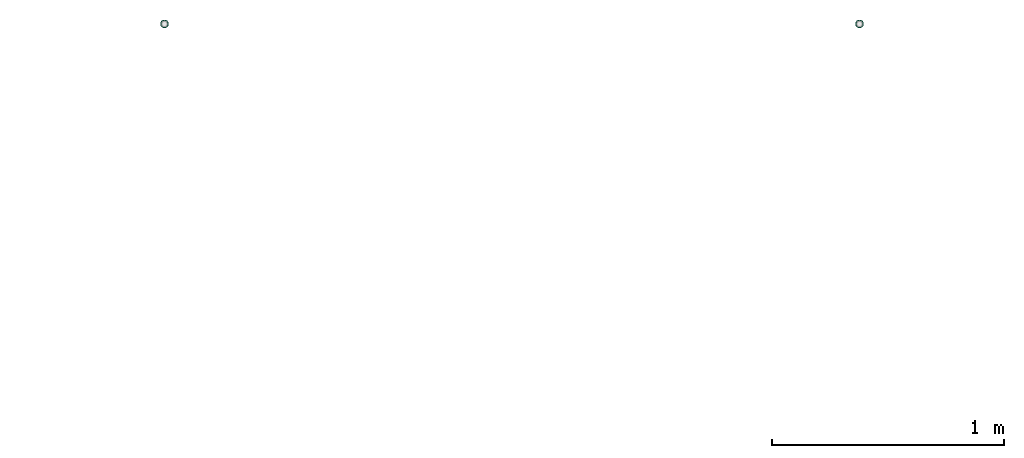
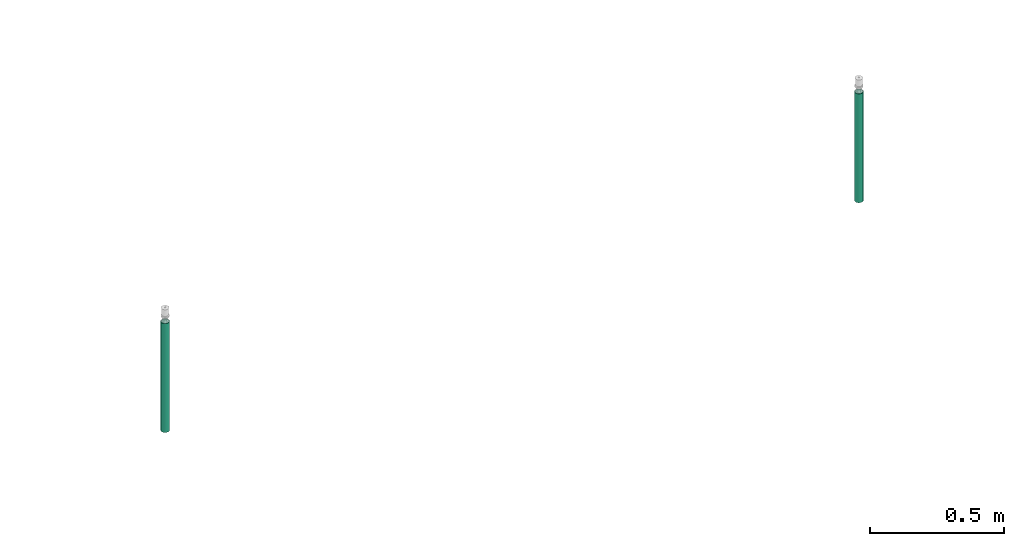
# One storey, part 43 of 44: 2 flow segments.
"""IFC2X3 building model written with IfcOpenShell, lengths in millimetres."""

from ifc_helpers import new_model, entity, si_unit, converted_unit, derived_unit, direction, frame, place, context, subcontext, project, spatial, faceted_brep, type_object, element, save


model = new_model("IFC2X3")

# Units and contexts
model_context = context("Model", 3, precision=0.01, world=frame((0.0, 4.29681676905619e-09, 0.0)), true_north=direction((4.01073788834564e-13, 1.0)))
plan_context = context("Plan", 3, precision=0.01, world=frame((0.0, 4.29681676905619e-09, 0.0)), true_north=direction((4.01073788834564e-13, 1.0)))
body_context = subcontext(model_context, "Body", "Model", "MODEL_VIEW")
ifc_project = project(units=[converted_unit("PLANEANGLEUNIT", "DEGREE", entity("IfcPositiveLengthMeasure", 0.0174532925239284), si_unit("PLANEANGLEUNIT", "RADIAN"), dimensions=[0, 0, 0, 0, 0, 0, 0]), si_unit("AREAUNIT", "SQUARE_METRE"), si_unit("LENGTHUNIT", "METRE", prefix="MILLI"), si_unit("MASSUNIT", "GRAM", prefix="KILO"), si_unit("POWERUNIT", "WATT"), si_unit("PRESSUREUNIT", "PASCAL"), si_unit("FORCEUNIT", "NEWTON", prefix="KILO"), si_unit("ELECTRICVOLTAGEUNIT", "VOLT"), si_unit("ELECTRICCURRENTUNIT", "AMPERE"), si_unit("THERMODYNAMICTEMPERATUREUNIT", "DEGREE_CELSIUS"), si_unit("TIMEUNIT", "SECOND"), si_unit("VOLUMEUNIT", "CUBIC_METRE"), derived_unit("LINEARVELOCITYUNIT", [(si_unit("LENGTHUNIT", "METRE"), 1), (si_unit("TIMEUNIT", "SECOND"), -1)]), derived_unit("VOLUMETRICFLOWRATEUNIT", [(si_unit("VOLUMEUNIT", "CUBIC_METRE"), 1), (si_unit("TIMEUNIT", "SECOND"), -1)]), derived_unit("THERMALTRANSMITTANCEUNIT", [(si_unit("POWERUNIT", "WATT"), 1), (si_unit("THERMODYNAMICTEMPERATUREUNIT", "KELVIN"), -1), (si_unit("AREAUNIT", "SQUARE_METRE"), -1)]), derived_unit("SOUNDPRESSUREUNIT", [(si_unit("PRESSUREUNIT", "PASCAL"), 1)])], contexts=[model_context, plan_context])

# Site, building, storey
site_placement = place(None, frame((0.0, -4.29681676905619e-09, 0.0), z_axis=(0.0, 0.0, 1.0), x_axis=(1.0, 0.0, 0.0)))
site = spatial("IfcSite", under=ifc_project, at=site_placement, CompositionType="ELEMENT")
building_placement = place(site_placement, frame((0.0, 4.29681676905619e-09, 0.0), z_axis=(0.0, 0.0, 1.0), x_axis=(1.0, 0.0, 0.0)))
building = spatial("IfcBuilding", under=site, at=building_placement, Name="mc-building", CompositionType="ELEMENT")
storey_placement = place(building_placement, frame((0.0, 0.0, 207370.0), z_axis=(0.0, 0.0, 1.0), x_axis=(1.0, 0.0, 0.0)))
storey = spatial("IfcBuildingStorey", under=building, at=storey_placement, Name="Nivå E", CompositionType="ELEMENT", Elevation=207370.0)

# Flow segments
pipe_segment_type = type_object("IfcPipeSegmentType", Name="Stålrør normaltykke", PredefinedType="RIGIDSEGMENT")
flow_segment_1_placement = place(storey_placement, frame((530500.0, 459009.83177, 1961.79999999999), z_axis=(1.0, 0.0, 0.0), x_axis=(0.0, 0.0, 1.0)))
element("IfcFlowSegment", 1, at=flow_segment_1_placement, inside=storey, type_object=pipe_segment_type, Name="Stålrør normaltykke", context=body_context, shape_type="Brep", body=[
    faceted_brep([(568.200000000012, 14.6736355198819, -2.58735784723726), (568.200000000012, 14.9, 0.0), (1065.8, 14.9, 0.0), (1065.8, 14.6736355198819, -2.58735784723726), (568.200000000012, 14.00142004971, -5.09610013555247), (1065.8, 14.00142004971, -5.09610013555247), (568.200000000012, 12.9037785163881, -7.45), (1065.8, 12.9037785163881, -7.45000000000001), (568.200000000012, 11.4140622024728, -9.57753538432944), (1065.8, 11.4140622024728, -9.57753538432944), (568.200000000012, 9.57753538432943, -11.4140622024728), (1065.8, 9.57753538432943, -11.4140622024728), (568.200000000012, 7.45, -12.9037785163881), (1065.8, 7.45, -12.9037785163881), (568.200000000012, 5.09610013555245, -14.00142004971), (1065.8, 5.09610013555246, -14.00142004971), (568.200000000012, 2.58735784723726, -14.6736355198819), (1065.8, 2.58735784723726, -14.6736355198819), (568.200000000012, -2.73708559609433e-15, -14.9), (1065.8, -2.73708559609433e-15, -14.9), (568.200000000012, -2.58735784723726, -14.6736355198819), (1065.8, -2.58735784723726, -14.6736355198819), (568.200000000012, -5.09610013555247, -14.00142004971), (1065.8, -5.09610013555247, -14.00142004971), (568.200000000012, -7.45, -12.9037785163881), (1065.8, -7.45000000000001, -12.9037785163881), (568.200000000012, -9.57753538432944, -11.4140622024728), (1065.8, -9.57753538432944, -11.4140622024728), (568.200000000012, -11.4140622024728, -9.57753538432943), (1065.8, -11.4140622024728, -9.57753538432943), (568.200000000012, -12.9037785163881, -7.44999999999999), (1065.8, -12.9037785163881, -7.44999999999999), (568.200000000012, -14.00142004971, -5.09610013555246), (1065.8, -14.00142004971, -5.09610013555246), (568.200000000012, -14.6736355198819, -2.58735784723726), (1065.8, -14.6736355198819, -2.58735784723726), (568.200000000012, -14.9, 1.82472373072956e-15), (1065.8, -14.9, 1.82472373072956e-15), (568.200000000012, -14.6736355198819, 2.58735784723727), (1065.8, -14.6736355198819, 2.58735784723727), (568.200000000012, -14.00142004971, 5.09610013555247), (1065.8, -14.00142004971, 5.09610013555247), (568.200000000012, -12.9037785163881, 7.45), (1065.8, -12.9037785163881, 7.45), (568.200000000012, -11.4140622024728, 9.57753538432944), (1065.8, -11.4140622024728, 9.57753538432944), (568.200000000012, -9.57753538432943, 11.4140622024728), (1065.8, -9.57753538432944, 11.4140622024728), (568.200000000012, -7.45, 12.9037785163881), (1065.8, -7.45, 12.9037785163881), (568.200000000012, -5.09610013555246, 14.00142004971), (1065.8, -5.09610013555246, 14.00142004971), (568.200000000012, -2.58735784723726, 14.6736355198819), (1065.8, -2.58735784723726, 14.6736355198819), (568.200000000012, 9.12361865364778e-16, 14.9), (1065.8, 9.12361865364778e-16, 14.9), (568.200000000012, 2.58735784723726, 14.6736355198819), (1065.8, 2.58735784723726, 14.6736355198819), (568.200000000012, 5.09610013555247, 14.00142004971), (1065.8, 5.09610013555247, 14.00142004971), (568.200000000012, 7.45, 12.9037785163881), (1065.8, 7.45, 12.9037785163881), (568.200000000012, 9.57753538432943, 11.4140622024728), (1065.8, 9.57753538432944, 11.4140622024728), (568.200000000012, 11.4140622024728, 9.57753538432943), (1065.8, 11.4140622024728, 9.57753538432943), (568.200000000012, 12.9037785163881, 7.45), (1065.8, 12.9037785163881, 7.45), (568.200000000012, 14.00142004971, 5.09610013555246), (1065.8, 14.00142004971, 5.09610013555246), (568.200000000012, 14.6736355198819, 2.58735784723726), (1065.8, 14.6736355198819, 2.58735784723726), (568.200000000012, 16.9, 0.0), (568.200000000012, 16.6432510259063, -2.93465420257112), (1065.8, 16.6432510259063, -2.93465420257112), (1065.8, 16.9, 0.0), (568.200000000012, 16.6432510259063, 2.93465420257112), (1065.8, 16.6432510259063, 2.93465420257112), (568.200000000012, 15.8808052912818, 5.7801404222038), (1065.8, 15.8808052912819, 5.7801404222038), (568.200000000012, 14.635829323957, 8.45), (1065.8, 14.635829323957, 8.45), (568.200000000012, 12.9461510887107, 10.8631106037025), (1065.8, 12.9461510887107, 10.8631106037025), (568.200000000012, 10.8631106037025, 12.9461510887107), (1065.8, 10.8631106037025, 12.9461510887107), (568.200000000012, 8.45, 14.635829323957), (1065.8, 8.45, 14.635829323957), (568.200000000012, 5.7801404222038, 15.8808052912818), (1065.8, 5.7801404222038, 15.8808052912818), (568.200000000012, 2.93465420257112, 16.6432510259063), (1065.8, 2.93465420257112, 16.6432510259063), (568.200000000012, 1.03482654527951e-15, 16.9), (1065.8, 1.03482654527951e-15, 16.9), (568.200000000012, -2.93465420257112, 16.6432510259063), (1065.8, -2.93465420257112, 16.6432510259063), (568.200000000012, -5.7801404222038, 15.8808052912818), (1065.8, -5.7801404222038, 15.8808052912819), (568.200000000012, -8.45, 14.635829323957), (1065.8, -8.45, 14.635829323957), (568.200000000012, -10.8631106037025, 12.9461510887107), (1065.8, -10.8631106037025, 12.9461510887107), (568.200000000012, -12.9461510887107, 10.8631106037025), (1065.8, -12.9461510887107, 10.8631106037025), (568.200000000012, -14.635829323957, 8.45), (1065.8, -14.635829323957, 8.45), (568.200000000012, -15.8808052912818, 5.7801404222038), (1065.8, -15.8808052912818, 5.7801404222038), (568.200000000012, -16.6432510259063, 2.93465420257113), (1065.8, -16.6432510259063, 2.93465420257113), (568.200000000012, -16.9, 2.06965309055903e-15), (1065.8, -16.9, 2.06965309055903e-15), (568.200000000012, -16.6432510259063, -2.93465420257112), (1065.8, -16.6432510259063, -2.93465420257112), (568.200000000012, -15.8808052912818, -5.7801404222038), (1065.8, -15.8808052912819, -5.7801404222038), (568.200000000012, -14.635829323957, -8.44999999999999), (1065.8, -14.635829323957, -8.44999999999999), (568.200000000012, -12.9461510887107, -10.8631106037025), (1065.8, -12.9461510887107, -10.8631106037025), (568.200000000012, -10.8631106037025, -12.9461510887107), (1065.8, -10.8631106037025, -12.9461510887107), (568.200000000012, -8.45000000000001, -14.635829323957), (1065.8, -8.45000000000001, -14.635829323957), (568.200000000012, -5.78014042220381, -15.8808052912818), (1065.8, -5.78014042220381, -15.8808052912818), (568.200000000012, -2.93465420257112, -16.6432510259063), (1065.8, -2.93465420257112, -16.6432510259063), (568.200000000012, -3.10447963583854e-15, -16.9), (1065.8, -3.10447963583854e-15, -16.9), (568.200000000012, 2.93465420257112, -16.6432510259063), (1065.8, 2.93465420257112, -16.6432510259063), (568.200000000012, 5.78014042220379, -15.8808052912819), (1065.8, 5.78014042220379, -15.8808052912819), (568.200000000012, 8.45, -14.635829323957), (1065.8, 8.45, -14.635829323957), (568.200000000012, 10.8631106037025, -12.9461510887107), (1065.8, 10.8631106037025, -12.9461510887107), (568.200000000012, 12.9461510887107, -10.8631106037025), (1065.8, 12.9461510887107, -10.8631106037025), (568.200000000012, 14.635829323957, -8.45000000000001), (1065.8, 14.635829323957, -8.45000000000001), (568.200000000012, 15.8808052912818, -5.78014042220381), (1065.8, 15.8808052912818, -5.78014042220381)], [[[0, 1, 2, 3]], [[4, 0, 3, 5]], [[6, 4, 5, 7]], [[8, 6, 7, 9]], [[10, 8, 9, 11]], [[12, 10, 11, 13]], [[14, 12, 13, 15]], [[16, 14, 15, 17]], [[18, 16, 17, 19]], [[20, 18, 19, 21]], [[22, 20, 21, 23]], [[24, 22, 23, 25]], [[26, 24, 25, 27]], [[28, 26, 27, 29]], [[30, 28, 29, 31]], [[32, 30, 31, 33]], [[34, 32, 33, 35]], [[36, 34, 35, 37]], [[38, 36, 37, 39]], [[40, 38, 39, 41]], [[42, 40, 41, 43]], [[44, 42, 43, 45]], [[46, 44, 45, 47]], [[48, 46, 47, 49]], [[50, 48, 49, 51]], [[52, 50, 51, 53]], [[54, 52, 53, 55]], [[56, 54, 55, 57]], [[58, 56, 57, 59]], [[60, 58, 59, 61]], [[62, 60, 61, 63]], [[64, 62, 63, 65]], [[66, 64, 65, 67]], [[68, 66, 67, 69]], [[70, 68, 69, 71]], [[1, 70, 71, 2]], [[72, 73, 74, 75]], [[76, 72, 75, 77]], [[78, 76, 77, 79]], [[80, 78, 79, 81]], [[82, 80, 81, 83]], [[84, 82, 83, 85]], [[86, 84, 85, 87]], [[88, 86, 87, 89]], [[90, 88, 89, 91]], [[92, 90, 91, 93]], [[94, 92, 93, 95]], [[96, 94, 95, 97]], [[98, 96, 97, 99]], [[100, 98, 99, 101]], [[102, 100, 101, 103]], [[104, 102, 103, 105]], [[106, 104, 105, 107]], [[108, 106, 107, 109]], [[110, 108, 109, 111]], [[112, 110, 111, 113]], [[114, 112, 113, 115]], [[116, 114, 115, 117]], [[118, 116, 117, 119]], [[120, 118, 119, 121]], [[122, 120, 121, 123]], [[124, 122, 123, 125]], [[126, 124, 125, 127]], [[128, 126, 127, 129]], [[130, 128, 129, 131]], [[132, 130, 131, 133]], [[134, 132, 133, 135]], [[136, 134, 135, 137]], [[138, 136, 137, 139]], [[140, 138, 139, 141]], [[142, 140, 141, 143]], [[73, 142, 143, 74]], [[75, 74, 143, 141, 139, 137, 135, 133, 131, 129, 127, 125, 123, 121, 119, 117, 115, 113, 111, 109, 107, 105, 103, 101, 99, 97, 95, 93, 91, 89, 87, 85, 83, 81, 79, 77], [2, 71, 69, 67, 65, 63, 61, 59, 57, 55, 53, 51, 49, 47, 45, 43, 41, 39, 37, 35, 33, 31, 29, 27, 25, 23, 21, 19, 17, 15, 13, 11, 9, 7, 5, 3]], [[76, 78, 80, 82, 84, 86, 88, 90, 92, 94, 96, 98, 100, 102, 104, 106, 108, 110, 112, 114, 116, 118, 120, 122, 124, 126, 128, 130, 132, 134, 136, 138, 140, 142, 73, 72], [4, 6, 8, 10, 12, 14, 16, 18, 20, 22, 24, 26, 28, 30, 32, 34, 36, 38, 40, 42, 44, 46, 48, 50, 52, 54, 56, 58, 60, 62, 64, 66, 68, 70, 1, 0]]], orient=[[False], [False], [False], [False], [False], [False], [False], [False], [False], [False], [False], [False], [False], [False], [False], [False], [False], [False], [False], [False], [False], [False], [False], [False], [False], [False], [False], [False], [False], [False], [False], [False], [False], [False], [False], [False], [False], [False], [False], [False], [False], [False], [False], [False], [False], [False], [False], [False], [False], [False], [False], [False], [False], [False], [False], [False], [False], [False], [False], [False], [False], [False], [False], [False], [False], [False], [False], [False], [False], [False], [False], [False], [False, False], [False, False]]),
])
flow_segment_2_placement = place(storey_placement, frame((527500.0, 459009.83177, 1961.79999999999), z_axis=(1.0, 0.0, 0.0), x_axis=(0.0, 0.0, 1.0)))
element("IfcFlowSegment", 2, at=flow_segment_2_placement, inside=storey, type_object=pipe_segment_type, Name="Stålrør normaltykke", context=body_context, shape_type="Brep", body=[
    faceted_brep([(568.200000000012, 14.6736355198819, -2.58735784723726), (568.200000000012, 14.9, 0.0), (1065.8, 14.9, 0.0), (1065.8, 14.6736355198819, -2.58735784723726), (568.200000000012, 14.00142004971, -5.09610013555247), (1065.8, 14.00142004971, -5.09610013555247), (568.200000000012, 12.9037785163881, -7.45), (1065.8, 12.9037785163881, -7.45000000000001), (568.200000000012, 11.4140622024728, -9.57753538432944), (1065.8, 11.4140622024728, -9.57753538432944), (568.200000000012, 9.57753538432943, -11.4140622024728), (1065.8, 9.57753538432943, -11.4140622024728), (568.200000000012, 7.45, -12.9037785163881), (1065.8, 7.45, -12.9037785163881), (568.200000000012, 5.09610013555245, -14.00142004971), (1065.8, 5.09610013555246, -14.00142004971), (568.200000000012, 2.58735784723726, -14.6736355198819), (1065.8, 2.58735784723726, -14.6736355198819), (568.200000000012, -2.73708559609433e-15, -14.9), (1065.8, -2.73708559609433e-15, -14.9), (568.200000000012, -2.58735784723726, -14.6736355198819), (1065.8, -2.58735784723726, -14.6736355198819), (568.200000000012, -5.09610013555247, -14.00142004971), (1065.8, -5.09610013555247, -14.00142004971), (568.200000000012, -7.45, -12.9037785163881), (1065.8, -7.45000000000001, -12.9037785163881), (568.200000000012, -9.57753538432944, -11.4140622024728), (1065.8, -9.57753538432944, -11.4140622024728), (568.200000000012, -11.4140622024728, -9.57753538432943), (1065.8, -11.4140622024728, -9.57753538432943), (568.200000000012, -12.9037785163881, -7.44999999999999), (1065.8, -12.9037785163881, -7.44999999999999), (568.200000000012, -14.00142004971, -5.09610013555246), (1065.8, -14.00142004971, -5.09610013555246), (568.200000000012, -14.6736355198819, -2.58735784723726), (1065.8, -14.6736355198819, -2.58735784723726), (568.200000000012, -14.9, 1.82472373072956e-15), (1065.8, -14.9, 1.82472373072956e-15), (568.200000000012, -14.6736355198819, 2.58735784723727), (1065.8, -14.6736355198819, 2.58735784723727), (568.200000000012, -14.00142004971, 5.09610013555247), (1065.8, -14.00142004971, 5.09610013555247), (568.200000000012, -12.9037785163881, 7.45), (1065.8, -12.9037785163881, 7.45), (568.200000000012, -11.4140622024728, 9.57753538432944), (1065.8, -11.4140622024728, 9.57753538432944), (568.200000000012, -9.57753538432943, 11.4140622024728), (1065.8, -9.57753538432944, 11.4140622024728), (568.200000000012, -7.45, 12.9037785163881), (1065.8, -7.45, 12.9037785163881), (568.200000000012, -5.09610013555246, 14.00142004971), (1065.8, -5.09610013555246, 14.00142004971), (568.200000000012, -2.58735784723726, 14.6736355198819), (1065.8, -2.58735784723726, 14.6736355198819), (568.200000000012, 9.12361865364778e-16, 14.9), (1065.8, 9.12361865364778e-16, 14.9), (568.200000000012, 2.58735784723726, 14.6736355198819), (1065.8, 2.58735784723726, 14.6736355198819), (568.200000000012, 5.09610013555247, 14.00142004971), (1065.8, 5.09610013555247, 14.00142004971), (568.200000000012, 7.45, 12.9037785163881), (1065.8, 7.45, 12.9037785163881), (568.200000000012, 9.57753538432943, 11.4140622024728), (1065.8, 9.57753538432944, 11.4140622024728), (568.200000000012, 11.4140622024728, 9.57753538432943), (1065.8, 11.4140622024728, 9.57753538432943), (568.200000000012, 12.9037785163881, 7.45), (1065.8, 12.9037785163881, 7.45), (568.200000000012, 14.00142004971, 5.09610013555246), (1065.8, 14.00142004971, 5.09610013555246), (568.200000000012, 14.6736355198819, 2.58735784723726), (1065.8, 14.6736355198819, 2.58735784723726), (568.200000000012, 16.9, 0.0), (568.200000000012, 16.6432510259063, -2.93465420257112), (1065.8, 16.6432510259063, -2.93465420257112), (1065.8, 16.9, 0.0), (568.200000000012, 16.6432510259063, 2.93465420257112), (1065.8, 16.6432510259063, 2.93465420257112), (568.200000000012, 15.8808052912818, 5.7801404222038), (1065.8, 15.8808052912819, 5.7801404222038), (568.200000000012, 14.635829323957, 8.45), (1065.8, 14.635829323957, 8.45), (568.200000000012, 12.9461510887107, 10.8631106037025), (1065.8, 12.9461510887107, 10.8631106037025), (568.200000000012, 10.8631106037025, 12.9461510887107), (1065.8, 10.8631106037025, 12.9461510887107), (568.200000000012, 8.45, 14.635829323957), (1065.8, 8.45, 14.635829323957), (568.200000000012, 5.7801404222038, 15.8808052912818), (1065.8, 5.7801404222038, 15.8808052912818), (568.200000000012, 2.93465420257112, 16.6432510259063), (1065.8, 2.93465420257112, 16.6432510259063), (568.200000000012, 1.03482654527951e-15, 16.9), (1065.8, 1.03482654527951e-15, 16.9), (568.200000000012, -2.93465420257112, 16.6432510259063), (1065.8, -2.93465420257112, 16.6432510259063), (568.200000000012, -5.7801404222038, 15.8808052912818), (1065.8, -5.7801404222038, 15.8808052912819), (568.200000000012, -8.45, 14.635829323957), (1065.8, -8.45, 14.635829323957), (568.200000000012, -10.8631106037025, 12.9461510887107), (1065.8, -10.8631106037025, 12.9461510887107), (568.200000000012, -12.9461510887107, 10.8631106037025), (1065.8, -12.9461510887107, 10.8631106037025), (568.200000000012, -14.635829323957, 8.45), (1065.8, -14.635829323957, 8.45), (568.200000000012, -15.8808052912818, 5.7801404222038), (1065.8, -15.8808052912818, 5.7801404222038), (568.200000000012, -16.6432510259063, 2.93465420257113), (1065.8, -16.6432510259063, 2.93465420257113), (568.200000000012, -16.9, 2.06965309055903e-15), (1065.8, -16.9, 2.06965309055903e-15), (568.200000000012, -16.6432510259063, -2.93465420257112), (1065.8, -16.6432510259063, -2.93465420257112), (568.200000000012, -15.8808052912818, -5.7801404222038), (1065.8, -15.8808052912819, -5.7801404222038), (568.200000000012, -14.635829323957, -8.44999999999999), (1065.8, -14.635829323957, -8.44999999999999), (568.200000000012, -12.9461510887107, -10.8631106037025), (1065.8, -12.9461510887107, -10.8631106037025), (568.200000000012, -10.8631106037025, -12.9461510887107), (1065.8, -10.8631106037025, -12.9461510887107), (568.200000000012, -8.45000000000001, -14.635829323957), (1065.8, -8.45000000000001, -14.635829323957), (568.200000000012, -5.78014042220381, -15.8808052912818), (1065.8, -5.78014042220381, -15.8808052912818), (568.200000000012, -2.93465420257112, -16.6432510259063), (1065.8, -2.93465420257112, -16.6432510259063), (568.200000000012, -3.10447963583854e-15, -16.9), (1065.8, -3.10447963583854e-15, -16.9), (568.200000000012, 2.93465420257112, -16.6432510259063), (1065.8, 2.93465420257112, -16.6432510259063), (568.200000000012, 5.78014042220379, -15.8808052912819), (1065.8, 5.78014042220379, -15.8808052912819), (568.200000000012, 8.45, -14.635829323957), (1065.8, 8.45, -14.635829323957), (568.200000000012, 10.8631106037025, -12.9461510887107), (1065.8, 10.8631106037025, -12.9461510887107), (568.200000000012, 12.9461510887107, -10.8631106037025), (1065.8, 12.9461510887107, -10.8631106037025), (568.200000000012, 14.635829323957, -8.45000000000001), (1065.8, 14.635829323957, -8.45000000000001), (568.200000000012, 15.8808052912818, -5.78014042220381), (1065.8, 15.8808052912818, -5.78014042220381)], [[[0, 1, 2, 3]], [[4, 0, 3, 5]], [[6, 4, 5, 7]], [[8, 6, 7, 9]], [[10, 8, 9, 11]], [[12, 10, 11, 13]], [[14, 12, 13, 15]], [[16, 14, 15, 17]], [[18, 16, 17, 19]], [[20, 18, 19, 21]], [[22, 20, 21, 23]], [[24, 22, 23, 25]], [[26, 24, 25, 27]], [[28, 26, 27, 29]], [[30, 28, 29, 31]], [[32, 30, 31, 33]], [[34, 32, 33, 35]], [[36, 34, 35, 37]], [[38, 36, 37, 39]], [[40, 38, 39, 41]], [[42, 40, 41, 43]], [[44, 42, 43, 45]], [[46, 44, 45, 47]], [[48, 46, 47, 49]], [[50, 48, 49, 51]], [[52, 50, 51, 53]], [[54, 52, 53, 55]], [[56, 54, 55, 57]], [[58, 56, 57, 59]], [[60, 58, 59, 61]], [[62, 60, 61, 63]], [[64, 62, 63, 65]], [[66, 64, 65, 67]], [[68, 66, 67, 69]], [[70, 68, 69, 71]], [[1, 70, 71, 2]], [[72, 73, 74, 75]], [[76, 72, 75, 77]], [[78, 76, 77, 79]], [[80, 78, 79, 81]], [[82, 80, 81, 83]], [[84, 82, 83, 85]], [[86, 84, 85, 87]], [[88, 86, 87, 89]], [[90, 88, 89, 91]], [[92, 90, 91, 93]], [[94, 92, 93, 95]], [[96, 94, 95, 97]], [[98, 96, 97, 99]], [[100, 98, 99, 101]], [[102, 100, 101, 103]], [[104, 102, 103, 105]], [[106, 104, 105, 107]], [[108, 106, 107, 109]], [[110, 108, 109, 111]], [[112, 110, 111, 113]], [[114, 112, 113, 115]], [[116, 114, 115, 117]], [[118, 116, 117, 119]], [[120, 118, 119, 121]], [[122, 120, 121, 123]], [[124, 122, 123, 125]], [[126, 124, 125, 127]], [[128, 126, 127, 129]], [[130, 128, 129, 131]], [[132, 130, 131, 133]], [[134, 132, 133, 135]], [[136, 134, 135, 137]], [[138, 136, 137, 139]], [[140, 138, 139, 141]], [[142, 140, 141, 143]], [[73, 142, 143, 74]], [[75, 74, 143, 141, 139, 137, 135, 133, 131, 129, 127, 125, 123, 121, 119, 117, 115, 113, 111, 109, 107, 105, 103, 101, 99, 97, 95, 93, 91, 89, 87, 85, 83, 81, 79, 77], [2, 71, 69, 67, 65, 63, 61, 59, 57, 55, 53, 51, 49, 47, 45, 43, 41, 39, 37, 35, 33, 31, 29, 27, 25, 23, 21, 19, 17, 15, 13, 11, 9, 7, 5, 3]], [[76, 78, 80, 82, 84, 86, 88, 90, 92, 94, 96, 98, 100, 102, 104, 106, 108, 110, 112, 114, 116, 118, 120, 122, 124, 126, 128, 130, 132, 134, 136, 138, 140, 142, 73, 72], [4, 6, 8, 10, 12, 14, 16, 18, 20, 22, 24, 26, 28, 30, 32, 34, 36, 38, 40, 42, 44, 46, 48, 50, 52, 54, 56, 58, 60, 62, 64, 66, 68, 70, 1, 0]]], orient=[[False], [False], [False], [False], [False], [False], [False], [False], [False], [False], [False], [False], [False], [False], [False], [False], [False], [False], [False], [False], [False], [False], [False], [False], [False], [False], [False], [False], [False], [False], [False], [False], [False], [False], [False], [False], [False], [False], [False], [False], [False], [False], [False], [False], [False], [False], [False], [False], [False], [False], [False], [False], [False], [False], [False], [False], [False], [False], [False], [False], [False], [False], [False], [False], [False], [False], [False], [False], [False], [False], [False], [False], [False, False], [False, False]]),
])

save(model, "model.ifc")
